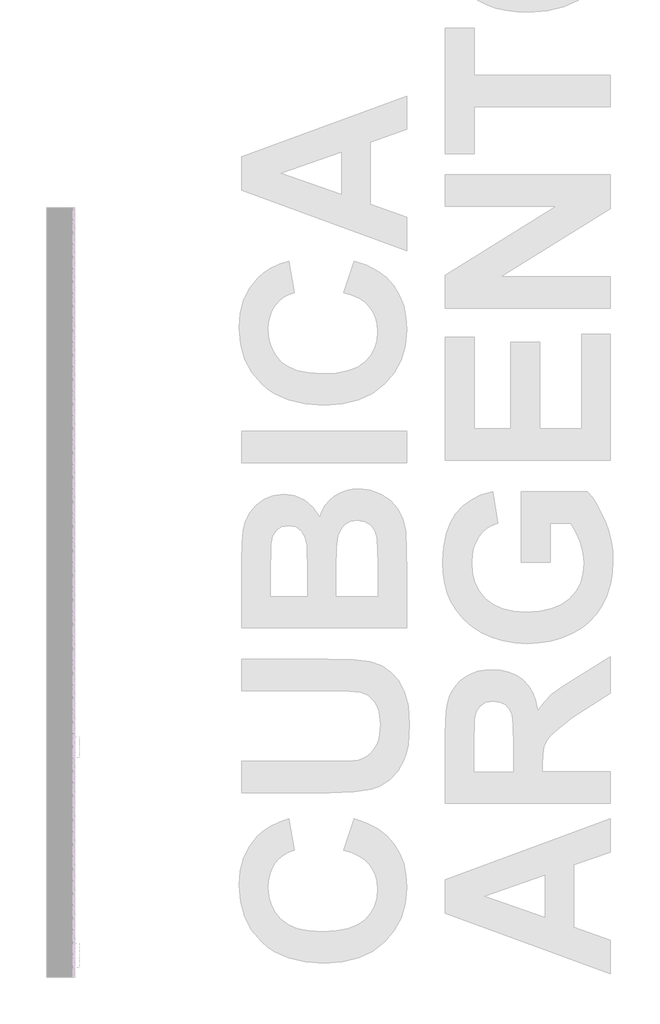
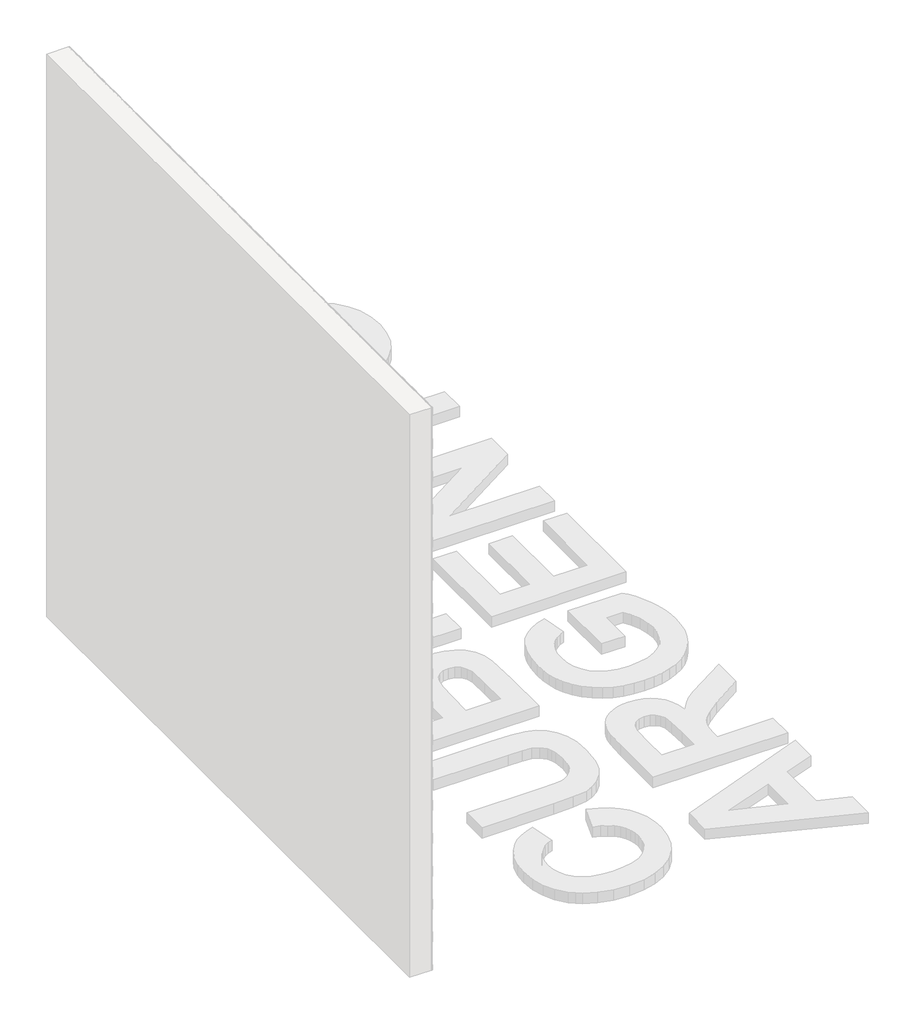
# One storey, part 9 of 121: 145 proxies.
"""IFC4 building model written with IfcOpenShell, lengths in millimetres."""

from ifc_helpers import new_model, si_unit, origin, place, context, project, spatial, transform, mapped, element, save
from components import generic_models_b2b2c5c1, generic_models_9bf73f6f, generic_models_5d175859

model = new_model("IFC4")

# Units and contexts
model_context = context("Model", 3, world=origin())
ifc_project = project(units=[si_unit("LENGTHUNIT", "METRE", prefix="MILLI")], contexts=[model_context])

# Site, building, storey
site = spatial("IfcSite", under=ifc_project)
building = spatial("IfcBuilding", under=site)
storey = spatial("IfcBuildingStorey", under=building, Name="PORTOBELLO - SHOWROOM", Elevation=0.0)

# Proxies
placement = place(None, origin())
generic_models_shape = generic_models_b2b2c5c1(model_context)
element("IfcBuildingElementProxy", 1, Name="PBSHOP - CUBICA ARGENTO 4,8X8,3 : CUBICA ARGENTO - POSIÇÃO 01", ObjectType="PBSHOP - CUBICA ARGENTO 4,8X8,3 : CUBICA ARGENTO - POSIÇÃO 01", at=placement, inside=storey, context=model_context, shape_type="MappedRepresentation", body=[
    mapped(generic_models_shape, transform((150369.5341846, -5313.3810235, 1460.2456575), x_axis=(0.0, 1.0, 0.0), y_axis=(0.0, 0.0, 1.0), z_axis=(1.0, 0.0, 0.0))),
])
element("IfcBuildingElementProxy", 2, Name="PBSHOP - CUBICA ARGENTO 4,8X8,3 : CUBICA ARGENTO - POSIÇÃO 01", ObjectType="PBSHOP - CUBICA ARGENTO 4,8X8,3 : CUBICA ARGENTO - POSIÇÃO 01", at=placement, inside=storey, context=model_context, shape_type="MappedRepresentation", body=[
    mapped(generic_models_shape, transform((150369.5341846, -5222.5417543, 1460.2456575), x_axis=(0.0, 1.0, 0.0), y_axis=(0.0, 0.0, 1.0), z_axis=(1.0, 0.0, 0.0))),
])
element("IfcBuildingElementProxy", 3, Name="PBSHOP - CUBICA ARGENTO 4,8X8,3 : CUBICA ARGENTO - POSIÇÃO 01", ObjectType="PBSHOP - CUBICA ARGENTO 4,8X8,3 : CUBICA ARGENTO - POSIÇÃO 01", at=placement, inside=storey, context=model_context, shape_type="MappedRepresentation", body=[
    mapped(generic_models_shape, transform((150369.5341846, -5131.702485, 1460.2456575), x_axis=(0.0, 1.0, 0.0), y_axis=(0.0, 0.0, 1.0), z_axis=(1.0, 0.0, 0.0))),
])
element("IfcBuildingElementProxy", 4, Name="PBSHOP - CUBICA ARGENTO 4,8X8,3 : CUBICA ARGENTO - POSIÇÃO 01", ObjectType="PBSHOP - CUBICA ARGENTO 4,8X8,3 : CUBICA ARGENTO - POSIÇÃO 01", at=placement, inside=storey, context=model_context, shape_type="MappedRepresentation", body=[
    mapped(generic_models_shape, transform((150369.5341846, -5040.8632158, 1460.2456575), x_axis=(0.0, 1.0, 0.0), y_axis=(0.0, 0.0, 1.0), z_axis=(1.0, 0.0, 0.0))),
])
element("IfcBuildingElementProxy", 5, Name="PBSHOP - CUBICA ARGENTO 4,8X8,3 : CUBICA ARGENTO - POSIÇÃO 01", ObjectType="PBSHOP - CUBICA ARGENTO 4,8X8,3 : CUBICA ARGENTO - POSIÇÃO 01", at=placement, inside=storey, context=model_context, shape_type="MappedRepresentation", body=[
    mapped(generic_models_shape, transform((150369.5341846, -5994.6755428, 1539.1802959), x_axis=(0.0, 1.0, 0.0), y_axis=(0.0, 0.0, 1.0), z_axis=(1.0, 0.0, 0.0))),
])
element("IfcBuildingElementProxy", 6, Name="PBSHOP - CUBICA ARGENTO 4,8X8,3 : CUBICA ARGENTO - POSIÇÃO 01", ObjectType="PBSHOP - CUBICA ARGENTO 4,8X8,3 : CUBICA ARGENTO - POSIÇÃO 01", at=placement, inside=storey, context=model_context, shape_type="MappedRepresentation", body=[
    mapped(generic_models_shape, transform((150369.5341846, -5903.8362736, 1539.1802959), x_axis=(0.0, 1.0, 0.0), y_axis=(0.0, 0.0, 1.0), z_axis=(1.0, 0.0, 0.0))),
])
element("IfcBuildingElementProxy", 7, Name="PBSHOP - CUBICA ARGENTO 4,8X8,3 : CUBICA ARGENTO - POSIÇÃO 01", ObjectType="PBSHOP - CUBICA ARGENTO 4,8X8,3 : CUBICA ARGENTO - POSIÇÃO 01", at=placement, inside=storey, context=model_context, shape_type="MappedRepresentation", body=[
    mapped(generic_models_shape, transform((150369.5341846, -5812.9970043, 1539.1802959), x_axis=(0.0, 1.0, 0.0), y_axis=(0.0, 0.0, 1.0), z_axis=(1.0, 0.0, 0.0))),
])
element("IfcBuildingElementProxy", 8, Name="PBSHOP - CUBICA ARGENTO 4,8X8,3 : CUBICA ARGENTO - POSIÇÃO 01", ObjectType="PBSHOP - CUBICA ARGENTO 4,8X8,3 : CUBICA ARGENTO - POSIÇÃO 01", at=placement, inside=storey, context=model_context, shape_type="MappedRepresentation", body=[
    mapped(generic_models_shape, transform((150369.5341846, -5722.1577351, 1539.1802959), x_axis=(0.0, 1.0, 0.0), y_axis=(0.0, 0.0, 1.0), z_axis=(1.0, 0.0, 0.0))),
])
element("IfcBuildingElementProxy", 9, Name="PBSHOP - CUBICA ARGENTO 4,8X8,3 : CUBICA ARGENTO - POSIÇÃO 01", ObjectType="PBSHOP - CUBICA ARGENTO 4,8X8,3 : CUBICA ARGENTO - POSIÇÃO 01", at=placement, inside=storey, context=model_context, shape_type="MappedRepresentation", body=[
    mapped(generic_models_shape, transform((150369.5341846, -5631.3184659, 1539.1802959), x_axis=(0.0, 1.0, 0.0), y_axis=(0.0, 0.0, 1.0), z_axis=(1.0, 0.0, 0.0))),
])
element("IfcBuildingElementProxy", 10, Name="PBSHOP - CUBICA ARGENTO 4,8X8,3 : CUBICA ARGENTO - POSIÇÃO 01", ObjectType="PBSHOP - CUBICA ARGENTO 4,8X8,3 : CUBICA ARGENTO - POSIÇÃO 01", at=placement, inside=storey, context=model_context, shape_type="MappedRepresentation", body=[
    mapped(generic_models_shape, transform((150369.5341846, -5540.4791966, 1539.1802959), x_axis=(0.0, 1.0, 0.0), y_axis=(0.0, 0.0, 1.0), z_axis=(1.0, 0.0, 0.0))),
])
element("IfcBuildingElementProxy", 11, Name="PBSHOP - CUBICA ARGENTO 4,8X8,3 : CUBICA ARGENTO - POSIÇÃO 01", ObjectType="PBSHOP - CUBICA ARGENTO 4,8X8,3 : CUBICA ARGENTO - POSIÇÃO 01", at=placement, inside=storey, context=model_context, shape_type="MappedRepresentation", body=[
    mapped(generic_models_shape, transform((150369.5341846, -5449.6399274, 1539.1802959), x_axis=(0.0, 1.0, 0.0), y_axis=(0.0, 0.0, 1.0), z_axis=(1.0, 0.0, 0.0))),
])
element("IfcBuildingElementProxy", 12, Name="PBSHOP - CUBICA ARGENTO 4,8X8,3 : CUBICA ARGENTO - POSIÇÃO 01", ObjectType="PBSHOP - CUBICA ARGENTO 4,8X8,3 : CUBICA ARGENTO - POSIÇÃO 01", at=placement, inside=storey, context=model_context, shape_type="MappedRepresentation", body=[
    mapped(generic_models_shape, transform((150369.5341846, -5358.8006581, 1539.1802959), x_axis=(0.0, 1.0, 0.0), y_axis=(0.0, 0.0, 1.0), z_axis=(1.0, 0.0, 0.0))),
])
element("IfcBuildingElementProxy", 13, Name="PBSHOP - CUBICA ARGENTO 4,8X8,3 : CUBICA ARGENTO - POSIÇÃO 01", ObjectType="PBSHOP - CUBICA ARGENTO 4,8X8,3 : CUBICA ARGENTO - POSIÇÃO 01", at=placement, inside=storey, context=model_context, shape_type="MappedRepresentation", body=[
    mapped(generic_models_shape, transform((150369.5341846, -5267.9613889, 1539.1802959), x_axis=(0.0, 1.0, 0.0), y_axis=(0.0, 0.0, 1.0), z_axis=(1.0, 0.0, 0.0))),
])
element("IfcBuildingElementProxy", 14, Name="PBSHOP - CUBICA ARGENTO 4,8X8,3 : CUBICA ARGENTO - POSIÇÃO 01", ObjectType="PBSHOP - CUBICA ARGENTO 4,8X8,3 : CUBICA ARGENTO - POSIÇÃO 01", at=placement, inside=storey, context=model_context, shape_type="MappedRepresentation", body=[
    mapped(generic_models_shape, transform((150369.5341846, -5177.1221196, 1539.1802959), x_axis=(0.0, 1.0, 0.0), y_axis=(0.0, 0.0, 1.0), z_axis=(1.0, 0.0, 0.0))),
])
element("IfcBuildingElementProxy", 15, Name="PBSHOP - CUBICA ARGENTO 4,8X8,3 : CUBICA ARGENTO - POSIÇÃO 01", ObjectType="PBSHOP - CUBICA ARGENTO 4,8X8,3 : CUBICA ARGENTO - POSIÇÃO 01", at=placement, inside=storey, context=model_context, shape_type="MappedRepresentation", body=[
    mapped(generic_models_shape, transform((150369.5341846, -5086.2828504, 1539.1802959), x_axis=(0.0, 1.0, 0.0), y_axis=(0.0, 0.0, 1.0), z_axis=(1.0, 0.0, 0.0))),
])
element("IfcBuildingElementProxy", 16, Name="PBSHOP - CUBICA ARGENTO 4,8X8,3 : CUBICA ARGENTO - POSIÇÃO 01", ObjectType="PBSHOP - CUBICA ARGENTO 4,8X8,3 : CUBICA ARGENTO - POSIÇÃO 01", at=placement, inside=storey, context=model_context, shape_type="MappedRepresentation", body=[
    mapped(generic_models_shape, transform((150369.5341846, -5949.2559082, 1618.1149343), x_axis=(0.0, 1.0, 0.0), y_axis=(0.0, 0.0, 1.0), z_axis=(1.0, 0.0, 0.0))),
])
element("IfcBuildingElementProxy", 17, Name="PBSHOP - CUBICA ARGENTO 4,8X8,3 : CUBICA ARGENTO - POSIÇÃO 01", ObjectType="PBSHOP - CUBICA ARGENTO 4,8X8,3 : CUBICA ARGENTO - POSIÇÃO 01", at=placement, inside=storey, context=model_context, shape_type="MappedRepresentation", body=[
    mapped(generic_models_shape, transform((150369.5341846, -5858.416639, 1618.1149343), x_axis=(0.0, 1.0, 0.0), y_axis=(0.0, 0.0, 1.0), z_axis=(1.0, 0.0, 0.0))),
])
element("IfcBuildingElementProxy", 18, Name="PBSHOP - CUBICA ARGENTO 4,8X8,3 : CUBICA ARGENTO - POSIÇÃO 01", ObjectType="PBSHOP - CUBICA ARGENTO 4,8X8,3 : CUBICA ARGENTO - POSIÇÃO 01", at=placement, inside=storey, context=model_context, shape_type="MappedRepresentation", body=[
    mapped(generic_models_shape, transform((150369.5341846, -5767.5773697, 1618.1149343), x_axis=(0.0, 1.0, 0.0), y_axis=(0.0, 0.0, 1.0), z_axis=(1.0, 0.0, 0.0))),
])
element("IfcBuildingElementProxy", 19, Name="PBSHOP - CUBICA ARGENTO 4,8X8,3 : CUBICA ARGENTO - POSIÇÃO 01", ObjectType="PBSHOP - CUBICA ARGENTO 4,8X8,3 : CUBICA ARGENTO - POSIÇÃO 01", at=placement, inside=storey, context=model_context, shape_type="MappedRepresentation", body=[
    mapped(generic_models_shape, transform((150369.5341846, -5676.7381005, 1618.1149343), x_axis=(0.0, 1.0, 0.0), y_axis=(0.0, 0.0, 1.0), z_axis=(1.0, 0.0, 0.0))),
])
element("IfcBuildingElementProxy", 20, Name="PBSHOP - CUBICA ARGENTO 4,8X8,3 : CUBICA ARGENTO - POSIÇÃO 01", ObjectType="PBSHOP - CUBICA ARGENTO 4,8X8,3 : CUBICA ARGENTO - POSIÇÃO 01", at=placement, inside=storey, context=model_context, shape_type="MappedRepresentation", body=[
    mapped(generic_models_shape, transform((150369.5341846, -5585.8988312, 1618.1149343), x_axis=(0.0, 1.0, 0.0), y_axis=(0.0, 0.0, 1.0), z_axis=(1.0, 0.0, 0.0))),
])
element("IfcBuildingElementProxy", 21, Name="PBSHOP - CUBICA ARGENTO 4,8X8,3 : CUBICA ARGENTO - POSIÇÃO 01", ObjectType="PBSHOP - CUBICA ARGENTO 4,8X8,3 : CUBICA ARGENTO - POSIÇÃO 01", at=placement, inside=storey, context=model_context, shape_type="MappedRepresentation", body=[
    mapped(generic_models_shape, transform((150369.5341846, -5495.059562, 1618.1149343), x_axis=(0.0, 1.0, 0.0), y_axis=(0.0, 0.0, 1.0), z_axis=(1.0, 0.0, 0.0))),
])
element("IfcBuildingElementProxy", 22, Name="PBSHOP - CUBICA ARGENTO 4,8X8,3 : CUBICA ARGENTO - POSIÇÃO 01", ObjectType="PBSHOP - CUBICA ARGENTO 4,8X8,3 : CUBICA ARGENTO - POSIÇÃO 01", at=placement, inside=storey, context=model_context, shape_type="MappedRepresentation", body=[
    mapped(generic_models_shape, transform((150369.5341846, -5404.2202927, 1618.1149343), x_axis=(0.0, 1.0, 0.0), y_axis=(0.0, 0.0, 1.0), z_axis=(1.0, 0.0, 0.0))),
])
element("IfcBuildingElementProxy", 23, Name="PBSHOP - CUBICA ARGENTO 4,8X8,3 : CUBICA ARGENTO - POSIÇÃO 01", ObjectType="PBSHOP - CUBICA ARGENTO 4,8X8,3 : CUBICA ARGENTO - POSIÇÃO 01", at=placement, inside=storey, context=model_context, shape_type="MappedRepresentation", body=[
    mapped(generic_models_shape, transform((150369.5341846, -5313.3810235, 1618.1149343), x_axis=(0.0, 1.0, 0.0), y_axis=(0.0, 0.0, 1.0), z_axis=(1.0, 0.0, 0.0))),
])
element("IfcBuildingElementProxy", 24, Name="PBSHOP - CUBICA ARGENTO 4,8X8,3 : CUBICA ARGENTO - POSIÇÃO 01", ObjectType="PBSHOP - CUBICA ARGENTO 4,8X8,3 : CUBICA ARGENTO - POSIÇÃO 01", at=placement, inside=storey, context=model_context, shape_type="MappedRepresentation", body=[
    mapped(generic_models_shape, transform((150369.5341846, -5222.5417543, 1618.1149343), x_axis=(0.0, 1.0, 0.0), y_axis=(0.0, 0.0, 1.0), z_axis=(1.0, 0.0, 0.0))),
])
element("IfcBuildingElementProxy", 25, Name="PBSHOP - CUBICA ARGENTO 4,8X8,3 : CUBICA ARGENTO - POSIÇÃO 01", ObjectType="PBSHOP - CUBICA ARGENTO 4,8X8,3 : CUBICA ARGENTO - POSIÇÃO 01", at=placement, inside=storey, context=model_context, shape_type="MappedRepresentation", body=[
    mapped(generic_models_shape, transform((150369.5341846, -5131.702485, 1618.1149343), x_axis=(0.0, 1.0, 0.0), y_axis=(0.0, 0.0, 1.0), z_axis=(1.0, 0.0, 0.0))),
])
element("IfcBuildingElementProxy", 26, Name="PBSHOP - CUBICA ARGENTO 4,8X8,3 : CUBICA ARGENTO - POSIÇÃO 01", ObjectType="PBSHOP - CUBICA ARGENTO 4,8X8,3 : CUBICA ARGENTO - POSIÇÃO 01", at=placement, inside=storey, context=model_context, shape_type="MappedRepresentation", body=[
    mapped(generic_models_shape, transform((150369.5341846, -5040.8632158, 1618.1149343), x_axis=(0.0, 1.0, 0.0), y_axis=(0.0, 0.0, 1.0), z_axis=(1.0, 0.0, 0.0))),
])
element("IfcBuildingElementProxy", 27, Name="PBSHOP - CUBICA ARGENTO 4,8X8,3 : CUBICA ARGENTO - POSIÇÃO 01", ObjectType="PBSHOP - CUBICA ARGENTO 4,8X8,3 : CUBICA ARGENTO - POSIÇÃO 01", at=placement, inside=storey, context=model_context, shape_type="MappedRepresentation", body=[
    mapped(generic_models_shape, transform((150369.5341846, -5994.6755428, 1697.0495727), x_axis=(0.0, 1.0, 0.0), y_axis=(0.0, 0.0, 1.0), z_axis=(1.0, 0.0, 0.0))),
])
element("IfcBuildingElementProxy", 28, Name="PBSHOP - CUBICA ARGENTO 4,8X8,3 : CUBICA ARGENTO - POSIÇÃO 01", ObjectType="PBSHOP - CUBICA ARGENTO 4,8X8,3 : CUBICA ARGENTO - POSIÇÃO 01", at=placement, inside=storey, context=model_context, shape_type="MappedRepresentation", body=[
    mapped(generic_models_shape, transform((150369.5341846, -5903.8362736, 1697.0495727), x_axis=(0.0, 1.0, 0.0), y_axis=(0.0, 0.0, 1.0), z_axis=(1.0, 0.0, 0.0))),
])
element("IfcBuildingElementProxy", 29, Name="PBSHOP - CUBICA ARGENTO 4,8X8,3 : CUBICA ARGENTO - POSIÇÃO 01", ObjectType="PBSHOP - CUBICA ARGENTO 4,8X8,3 : CUBICA ARGENTO - POSIÇÃO 01", at=placement, inside=storey, context=model_context, shape_type="MappedRepresentation", body=[
    mapped(generic_models_shape, transform((150369.5341846, -5812.9970043, 1697.0495727), x_axis=(0.0, 1.0, 0.0), y_axis=(0.0, 0.0, 1.0), z_axis=(1.0, 0.0, 0.0))),
])
element("IfcBuildingElementProxy", 30, Name="PBSHOP - CUBICA ARGENTO 4,8X8,3 : CUBICA ARGENTO - POSIÇÃO 01", ObjectType="PBSHOP - CUBICA ARGENTO 4,8X8,3 : CUBICA ARGENTO - POSIÇÃO 01", at=placement, inside=storey, context=model_context, shape_type="MappedRepresentation", body=[
    mapped(generic_models_shape, transform((150369.5341846, -5722.1577351, 1697.0495727), x_axis=(0.0, 1.0, 0.0), y_axis=(0.0, 0.0, 1.0), z_axis=(1.0, 0.0, 0.0))),
])
element("IfcBuildingElementProxy", 31, Name="PBSHOP - CUBICA ARGENTO 4,8X8,3 : CUBICA ARGENTO - POSIÇÃO 01", ObjectType="PBSHOP - CUBICA ARGENTO 4,8X8,3 : CUBICA ARGENTO - POSIÇÃO 01", at=placement, inside=storey, context=model_context, shape_type="MappedRepresentation", body=[
    mapped(generic_models_shape, transform((150369.5341846, -5631.3184659, 1697.0495727), x_axis=(0.0, 1.0, 0.0), y_axis=(0.0, 0.0, 1.0), z_axis=(1.0, 0.0, 0.0))),
])
element("IfcBuildingElementProxy", 32, Name="PBSHOP - CUBICA ARGENTO 4,8X8,3 : CUBICA ARGENTO - POSIÇÃO 01", ObjectType="PBSHOP - CUBICA ARGENTO 4,8X8,3 : CUBICA ARGENTO - POSIÇÃO 01", at=placement, inside=storey, context=model_context, shape_type="MappedRepresentation", body=[
    mapped(generic_models_shape, transform((150369.5341846, -5540.4791966, 1697.0495727), x_axis=(0.0, 1.0, 0.0), y_axis=(0.0, 0.0, 1.0), z_axis=(1.0, 0.0, 0.0))),
])
element("IfcBuildingElementProxy", 33, Name="PBSHOP - CUBICA ARGENTO 4,8X8,3 : CUBICA ARGENTO - POSIÇÃO 01", ObjectType="PBSHOP - CUBICA ARGENTO 4,8X8,3 : CUBICA ARGENTO - POSIÇÃO 01", at=placement, inside=storey, context=model_context, shape_type="MappedRepresentation", body=[
    mapped(generic_models_shape, transform((150369.5341846, -5449.6399274, 1697.0495727), x_axis=(0.0, 1.0, 0.0), y_axis=(0.0, 0.0, 1.0), z_axis=(1.0, 0.0, 0.0))),
])
element("IfcBuildingElementProxy", 34, Name="PBSHOP - CUBICA ARGENTO 4,8X8,3 : CUBICA ARGENTO - POSIÇÃO 01", ObjectType="PBSHOP - CUBICA ARGENTO 4,8X8,3 : CUBICA ARGENTO - POSIÇÃO 01", at=placement, inside=storey, context=model_context, shape_type="MappedRepresentation", body=[
    mapped(generic_models_shape, transform((150369.5341846, -5358.8006581, 1697.0495727), x_axis=(0.0, 1.0, 0.0), y_axis=(0.0, 0.0, 1.0), z_axis=(1.0, 0.0, 0.0))),
])
element("IfcBuildingElementProxy", 35, Name="PBSHOP - CUBICA ARGENTO 4,8X8,3 : CUBICA ARGENTO - POSIÇÃO 01", ObjectType="PBSHOP - CUBICA ARGENTO 4,8X8,3 : CUBICA ARGENTO - POSIÇÃO 01", at=placement, inside=storey, context=model_context, shape_type="MappedRepresentation", body=[
    mapped(generic_models_shape, transform((150369.5341846, -5267.9613889, 1697.0495727), x_axis=(0.0, 1.0, 0.0), y_axis=(0.0, 0.0, 1.0), z_axis=(1.0, 0.0, 0.0))),
])
element("IfcBuildingElementProxy", 36, Name="PBSHOP - CUBICA ARGENTO 4,8X8,3 : CUBICA ARGENTO - POSIÇÃO 01", ObjectType="PBSHOP - CUBICA ARGENTO 4,8X8,3 : CUBICA ARGENTO - POSIÇÃO 01", at=placement, inside=storey, context=model_context, shape_type="MappedRepresentation", body=[
    mapped(generic_models_shape, transform((150369.5341846, -5177.1221196, 1697.0495727), x_axis=(0.0, 1.0, 0.0), y_axis=(0.0, 0.0, 1.0), z_axis=(1.0, 0.0, 0.0))),
])
element("IfcBuildingElementProxy", 37, Name="PBSHOP - CUBICA ARGENTO 4,8X8,3 : CUBICA ARGENTO - POSIÇÃO 01", ObjectType="PBSHOP - CUBICA ARGENTO 4,8X8,3 : CUBICA ARGENTO - POSIÇÃO 01", at=placement, inside=storey, context=model_context, shape_type="MappedRepresentation", body=[
    mapped(generic_models_shape, transform((150369.5341846, -5086.2828504, 1697.0495727), x_axis=(0.0, 1.0, 0.0), y_axis=(0.0, 0.0, 1.0), z_axis=(1.0, 0.0, 0.0))),
])
element("IfcBuildingElementProxy", 38, Name="PBSHOP - CUBICA ARGENTO 4,8X8,3 : CUBICA ARGENTO - POSIÇÃO 01", ObjectType="PBSHOP - CUBICA ARGENTO 4,8X8,3 : CUBICA ARGENTO - POSIÇÃO 01", at=placement, inside=storey, context=model_context, shape_type="MappedRepresentation", body=[
    mapped(generic_models_shape, transform((150369.5341846, -5949.2559082, 1775.984211), x_axis=(0.0, 1.0, 0.0), y_axis=(0.0, 0.0, 1.0), z_axis=(1.0, 0.0, 0.0))),
])
element("IfcBuildingElementProxy", 39, Name="PBSHOP - CUBICA ARGENTO 4,8X8,3 : CUBICA ARGENTO - POSIÇÃO 01", ObjectType="PBSHOP - CUBICA ARGENTO 4,8X8,3 : CUBICA ARGENTO - POSIÇÃO 01", at=placement, inside=storey, context=model_context, shape_type="MappedRepresentation", body=[
    mapped(generic_models_shape, transform((150369.5341846, -5858.416639, 1775.984211), x_axis=(0.0, 1.0, 0.0), y_axis=(0.0, 0.0, 1.0), z_axis=(1.0, 0.0, 0.0))),
])
element("IfcBuildingElementProxy", 40, Name="PBSHOP - CUBICA ARGENTO 4,8X8,3 : CUBICA ARGENTO - POSIÇÃO 01", ObjectType="PBSHOP - CUBICA ARGENTO 4,8X8,3 : CUBICA ARGENTO - POSIÇÃO 01", at=placement, inside=storey, context=model_context, shape_type="MappedRepresentation", body=[
    mapped(generic_models_shape, transform((150369.5341846, -5767.5773697, 1775.984211), x_axis=(0.0, 1.0, 0.0), y_axis=(0.0, 0.0, 1.0), z_axis=(1.0, 0.0, 0.0))),
])
element("IfcBuildingElementProxy", 41, Name="PBSHOP - CUBICA ARGENTO 4,8X8,3 : CUBICA ARGENTO - POSIÇÃO 01", ObjectType="PBSHOP - CUBICA ARGENTO 4,8X8,3 : CUBICA ARGENTO - POSIÇÃO 01", at=placement, inside=storey, context=model_context, shape_type="MappedRepresentation", body=[
    mapped(generic_models_shape, transform((150369.5341846, -5676.7381005, 1775.984211), x_axis=(0.0, 1.0, 0.0), y_axis=(0.0, 0.0, 1.0), z_axis=(1.0, 0.0, 0.0))),
])
element("IfcBuildingElementProxy", 42, Name="PBSHOP - CUBICA ARGENTO 4,8X8,3 : CUBICA ARGENTO - POSIÇÃO 01", ObjectType="PBSHOP - CUBICA ARGENTO 4,8X8,3 : CUBICA ARGENTO - POSIÇÃO 01", at=placement, inside=storey, context=model_context, shape_type="MappedRepresentation", body=[
    mapped(generic_models_shape, transform((150369.5341846, -5585.8988312, 1775.984211), x_axis=(0.0, 1.0, 0.0), y_axis=(0.0, 0.0, 1.0), z_axis=(1.0, 0.0, 0.0))),
])
element("IfcBuildingElementProxy", 43, Name="PBSHOP - CUBICA ARGENTO 4,8X8,3 : CUBICA ARGENTO - POSIÇÃO 01", ObjectType="PBSHOP - CUBICA ARGENTO 4,8X8,3 : CUBICA ARGENTO - POSIÇÃO 01", at=placement, inside=storey, context=model_context, shape_type="MappedRepresentation", body=[
    mapped(generic_models_shape, transform((150369.5341846, -5495.059562, 1775.984211), x_axis=(0.0, 1.0, 0.0), y_axis=(0.0, 0.0, 1.0), z_axis=(1.0, 0.0, 0.0))),
])
element("IfcBuildingElementProxy", 44, Name="PBSHOP - CUBICA ARGENTO 4,8X8,3 : CUBICA ARGENTO - POSIÇÃO 01", ObjectType="PBSHOP - CUBICA ARGENTO 4,8X8,3 : CUBICA ARGENTO - POSIÇÃO 01", at=placement, inside=storey, context=model_context, shape_type="MappedRepresentation", body=[
    mapped(generic_models_shape, transform((150369.5341846, -5404.2202927, 1775.984211), x_axis=(0.0, 1.0, 0.0), y_axis=(0.0, 0.0, 1.0), z_axis=(1.0, 0.0, 0.0))),
])
element("IfcBuildingElementProxy", 45, Name="PBSHOP - CUBICA ARGENTO 4,8X8,3 : CUBICA ARGENTO - POSIÇÃO 01", ObjectType="PBSHOP - CUBICA ARGENTO 4,8X8,3 : CUBICA ARGENTO - POSIÇÃO 01", at=placement, inside=storey, context=model_context, shape_type="MappedRepresentation", body=[
    mapped(generic_models_shape, transform((150369.5341846, -5313.3810235, 1775.984211), x_axis=(0.0, 1.0, 0.0), y_axis=(0.0, 0.0, 1.0), z_axis=(1.0, 0.0, 0.0))),
])
element("IfcBuildingElementProxy", 46, Name="PBSHOP - CUBICA ARGENTO 4,8X8,3 : CUBICA ARGENTO - POSIÇÃO 01", ObjectType="PBSHOP - CUBICA ARGENTO 4,8X8,3 : CUBICA ARGENTO - POSIÇÃO 01", at=placement, inside=storey, context=model_context, shape_type="MappedRepresentation", body=[
    mapped(generic_models_shape, transform((150369.5341846, -5222.5417543, 1775.984211), x_axis=(0.0, 1.0, 0.0), y_axis=(0.0, 0.0, 1.0), z_axis=(1.0, 0.0, 0.0))),
])
element("IfcBuildingElementProxy", 47, Name="PBSHOP - CUBICA ARGENTO 4,8X8,3 : CUBICA ARGENTO - POSIÇÃO 01", ObjectType="PBSHOP - CUBICA ARGENTO 4,8X8,3 : CUBICA ARGENTO - POSIÇÃO 01", at=placement, inside=storey, context=model_context, shape_type="MappedRepresentation", body=[
    mapped(generic_models_shape, transform((150369.5341846, -5131.702485, 1775.984211), x_axis=(0.0, 1.0, 0.0), y_axis=(0.0, 0.0, 1.0), z_axis=(1.0, 0.0, 0.0))),
])
element("IfcBuildingElementProxy", 48, Name="PBSHOP - CUBICA ARGENTO 4,8X8,3 : CUBICA ARGENTO - POSIÇÃO 01", ObjectType="PBSHOP - CUBICA ARGENTO 4,8X8,3 : CUBICA ARGENTO - POSIÇÃO 01", at=placement, inside=storey, context=model_context, shape_type="MappedRepresentation", body=[
    mapped(generic_models_shape, transform((150369.5341846, -5040.8632158, 1775.984211), x_axis=(0.0, 1.0, 0.0), y_axis=(0.0, 0.0, 1.0), z_axis=(1.0, 0.0, 0.0))),
])
generic_models_2_shape = generic_models_9bf73f6f(model_context)
element("IfcBuildingElementProxy", 49, Name="PBSHOP - CUBICA ARGENTO 4,8X8,3 : CUBICA ARGENTO - POSIÇÃO 03", ObjectType="PBSHOP - CUBICA ARGENTO 4,8X8,3 : CUBICA ARGENTO - POSIÇÃO 03", at=placement, inside=storey, context=model_context, shape_type="MappedRepresentation", body=[
    mapped(generic_models_2_shape, transform((150369.5341846, -5971.9635664, 1420.7371279), x_axis=(0.0, 1.0, 0.0), y_axis=(0.0, 0.0, 1.0), z_axis=(1.0, 0.0, 0.0))),
])
element("IfcBuildingElementProxy", 50, Name="PBSHOP - CUBICA ARGENTO 4,8X8,3 : CUBICA ARGENTO - POSIÇÃO 03", ObjectType="PBSHOP - CUBICA ARGENTO 4,8X8,3 : CUBICA ARGENTO - POSIÇÃO 03", at=placement, inside=storey, context=model_context, shape_type="MappedRepresentation", body=[
    mapped(generic_models_2_shape, transform((150369.5341846, -5881.1242971, 1420.7371279), x_axis=(0.0, 1.0, 0.0), y_axis=(0.0, 0.0, 1.0), z_axis=(1.0, 0.0, 0.0))),
])
element("IfcBuildingElementProxy", 51, Name="PBSHOP - CUBICA ARGENTO 4,8X8,3 : CUBICA ARGENTO - POSIÇÃO 03", ObjectType="PBSHOP - CUBICA ARGENTO 4,8X8,3 : CUBICA ARGENTO - POSIÇÃO 03", at=placement, inside=storey, context=model_context, shape_type="MappedRepresentation", body=[
    mapped(generic_models_2_shape, transform((150369.5341846, -5790.2850279, 1420.7371279), x_axis=(0.0, 1.0, 0.0), y_axis=(0.0, 0.0, 1.0), z_axis=(1.0, 0.0, 0.0))),
])
element("IfcBuildingElementProxy", 52, Name="PBSHOP - CUBICA ARGENTO 4,8X8,3 : CUBICA ARGENTO - POSIÇÃO 03", ObjectType="PBSHOP - CUBICA ARGENTO 4,8X8,3 : CUBICA ARGENTO - POSIÇÃO 03", at=placement, inside=storey, context=model_context, shape_type="MappedRepresentation", body=[
    mapped(generic_models_2_shape, transform((150369.5341846, -5699.4457586, 1420.7371279), x_axis=(0.0, 1.0, 0.0), y_axis=(0.0, 0.0, 1.0), z_axis=(1.0, 0.0, 0.0))),
])
element("IfcBuildingElementProxy", 53, Name="PBSHOP - CUBICA ARGENTO 4,8X8,3 : CUBICA ARGENTO - POSIÇÃO 03", ObjectType="PBSHOP - CUBICA ARGENTO 4,8X8,3 : CUBICA ARGENTO - POSIÇÃO 03", at=placement, inside=storey, context=model_context, shape_type="MappedRepresentation", body=[
    mapped(generic_models_2_shape, transform((150369.5341846, -5608.6064894, 1420.7371279), x_axis=(0.0, 1.0, 0.0), y_axis=(0.0, 0.0, 1.0), z_axis=(1.0, 0.0, 0.0))),
])
element("IfcBuildingElementProxy", 54, Name="PBSHOP - CUBICA ARGENTO 4,8X8,3 : CUBICA ARGENTO - POSIÇÃO 03", ObjectType="PBSHOP - CUBICA ARGENTO 4,8X8,3 : CUBICA ARGENTO - POSIÇÃO 03", at=placement, inside=storey, context=model_context, shape_type="MappedRepresentation", body=[
    mapped(generic_models_2_shape, transform((150369.5341846, -5517.7672201, 1420.7371279), x_axis=(0.0, 1.0, 0.0), y_axis=(0.0, 0.0, 1.0), z_axis=(1.0, 0.0, 0.0))),
])
element("IfcBuildingElementProxy", 55, Name="PBSHOP - CUBICA ARGENTO 4,8X8,3 : CUBICA ARGENTO - POSIÇÃO 03", ObjectType="PBSHOP - CUBICA ARGENTO 4,8X8,3 : CUBICA ARGENTO - POSIÇÃO 03", at=placement, inside=storey, context=model_context, shape_type="MappedRepresentation", body=[
    mapped(generic_models_2_shape, transform((150369.5341846, -5426.9279509, 1420.7371279), x_axis=(0.0, 1.0, 0.0), y_axis=(0.0, 0.0, 1.0), z_axis=(1.0, 0.0, 0.0))),
])
element("IfcBuildingElementProxy", 56, Name="PBSHOP - CUBICA ARGENTO 4,8X8,3 : CUBICA ARGENTO - POSIÇÃO 03", ObjectType="PBSHOP - CUBICA ARGENTO 4,8X8,3 : CUBICA ARGENTO - POSIÇÃO 03", at=placement, inside=storey, context=model_context, shape_type="MappedRepresentation", body=[
    mapped(generic_models_2_shape, transform((150369.5341846, -5336.0886816, 1420.7371279), x_axis=(0.0, 1.0, 0.0), y_axis=(0.0, 0.0, 1.0), z_axis=(1.0, 0.0, 0.0))),
])
element("IfcBuildingElementProxy", 57, Name="PBSHOP - CUBICA ARGENTO 4,8X8,3 : CUBICA ARGENTO - POSIÇÃO 03", ObjectType="PBSHOP - CUBICA ARGENTO 4,8X8,3 : CUBICA ARGENTO - POSIÇÃO 03", at=placement, inside=storey, context=model_context, shape_type="MappedRepresentation", body=[
    mapped(generic_models_2_shape, transform((150369.5341846, -5245.2494124, 1420.7371279), x_axis=(0.0, 1.0, 0.0), y_axis=(0.0, 0.0, 1.0), z_axis=(1.0, 0.0, 0.0))),
])
element("IfcBuildingElementProxy", 58, Name="PBSHOP - CUBICA ARGENTO 4,8X8,3 : CUBICA ARGENTO - POSIÇÃO 03", ObjectType="PBSHOP - CUBICA ARGENTO 4,8X8,3 : CUBICA ARGENTO - POSIÇÃO 03", at=placement, inside=storey, context=model_context, shape_type="MappedRepresentation", body=[
    mapped(generic_models_2_shape, transform((150369.5341846, -5154.4101432, 1420.7371279), x_axis=(0.0, 1.0, 0.0), y_axis=(0.0, 0.0, 1.0), z_axis=(1.0, 0.0, 0.0))),
])
element("IfcBuildingElementProxy", 59, Name="PBSHOP - CUBICA ARGENTO 4,8X8,3 : CUBICA ARGENTO - POSIÇÃO 03", ObjectType="PBSHOP - CUBICA ARGENTO 4,8X8,3 : CUBICA ARGENTO - POSIÇÃO 03", at=placement, inside=storey, context=model_context, shape_type="MappedRepresentation", body=[
    mapped(generic_models_2_shape, transform((150369.5341846, -5063.5708739, 1420.7371279), x_axis=(0.0, 1.0, 0.0), y_axis=(0.0, 0.0, 1.0), z_axis=(1.0, 0.0, 0.0))),
])
element("IfcBuildingElementProxy", 60, Name="PBSHOP - CUBICA ARGENTO 4,8X8,3 : CUBICA ARGENTO - POSIÇÃO 03", ObjectType="PBSHOP - CUBICA ARGENTO 4,8X8,3 : CUBICA ARGENTO - POSIÇÃO 03", at=placement, inside=storey, context=model_context, shape_type="MappedRepresentation", body=[
    mapped(generic_models_2_shape, transform((150369.5341846, -5926.5439317, 1499.6717663), x_axis=(0.0, 1.0, 0.0), y_axis=(0.0, 0.0, 1.0), z_axis=(1.0, 0.0, 0.0))),
])
element("IfcBuildingElementProxy", 61, Name="PBSHOP - CUBICA ARGENTO 4,8X8,3 : CUBICA ARGENTO - POSIÇÃO 03", ObjectType="PBSHOP - CUBICA ARGENTO 4,8X8,3 : CUBICA ARGENTO - POSIÇÃO 03", at=placement, inside=storey, context=model_context, shape_type="MappedRepresentation", body=[
    mapped(generic_models_2_shape, transform((150369.5341846, -5835.7046625, 1499.6717663), x_axis=(0.0, 1.0, 0.0), y_axis=(0.0, 0.0, 1.0), z_axis=(1.0, 0.0, 0.0))),
])
element("IfcBuildingElementProxy", 62, Name="PBSHOP - CUBICA ARGENTO 4,8X8,3 : CUBICA ARGENTO - POSIÇÃO 03", ObjectType="PBSHOP - CUBICA ARGENTO 4,8X8,3 : CUBICA ARGENTO - POSIÇÃO 03", at=placement, inside=storey, context=model_context, shape_type="MappedRepresentation", body=[
    mapped(generic_models_2_shape, transform((150369.5341846, -5744.8653932, 1499.6717663), x_axis=(0.0, 1.0, 0.0), y_axis=(0.0, 0.0, 1.0), z_axis=(1.0, 0.0, 0.0))),
])
element("IfcBuildingElementProxy", 63, Name="PBSHOP - CUBICA ARGENTO 4,8X8,3 : CUBICA ARGENTO - POSIÇÃO 03", ObjectType="PBSHOP - CUBICA ARGENTO 4,8X8,3 : CUBICA ARGENTO - POSIÇÃO 03", at=placement, inside=storey, context=model_context, shape_type="MappedRepresentation", body=[
    mapped(generic_models_2_shape, transform((150369.5341846, -5654.026124, 1499.6717663), x_axis=(0.0, 1.0, 0.0), y_axis=(0.0, 0.0, 1.0), z_axis=(1.0, 0.0, 0.0))),
])
element("IfcBuildingElementProxy", 64, Name="PBSHOP - CUBICA ARGENTO 4,8X8,3 : CUBICA ARGENTO - POSIÇÃO 03", ObjectType="PBSHOP - CUBICA ARGENTO 4,8X8,3 : CUBICA ARGENTO - POSIÇÃO 03", at=placement, inside=storey, context=model_context, shape_type="MappedRepresentation", body=[
    mapped(generic_models_2_shape, transform((150369.5341846, -5563.1868548, 1499.6717663), x_axis=(0.0, 1.0, 0.0), y_axis=(0.0, 0.0, 1.0), z_axis=(1.0, 0.0, 0.0))),
])
element("IfcBuildingElementProxy", 65, Name="PBSHOP - CUBICA ARGENTO 4,8X8,3 : CUBICA ARGENTO - POSIÇÃO 03", ObjectType="PBSHOP - CUBICA ARGENTO 4,8X8,3 : CUBICA ARGENTO - POSIÇÃO 03", at=placement, inside=storey, context=model_context, shape_type="MappedRepresentation", body=[
    mapped(generic_models_2_shape, transform((150369.5341846, -5472.3475855, 1499.6717663), x_axis=(0.0, 1.0, 0.0), y_axis=(0.0, 0.0, 1.0), z_axis=(1.0, 0.0, 0.0))),
])
element("IfcBuildingElementProxy", 66, Name="PBSHOP - CUBICA ARGENTO 4,8X8,3 : CUBICA ARGENTO - POSIÇÃO 03", ObjectType="PBSHOP - CUBICA ARGENTO 4,8X8,3 : CUBICA ARGENTO - POSIÇÃO 03", at=placement, inside=storey, context=model_context, shape_type="MappedRepresentation", body=[
    mapped(generic_models_2_shape, transform((150369.5341846, -5381.5083163, 1499.6717663), x_axis=(0.0, 1.0, 0.0), y_axis=(0.0, 0.0, 1.0), z_axis=(1.0, 0.0, 0.0))),
])
element("IfcBuildingElementProxy", 67, Name="PBSHOP - CUBICA ARGENTO 4,8X8,3 : CUBICA ARGENTO - POSIÇÃO 03", ObjectType="PBSHOP - CUBICA ARGENTO 4,8X8,3 : CUBICA ARGENTO - POSIÇÃO 03", at=placement, inside=storey, context=model_context, shape_type="MappedRepresentation", body=[
    mapped(generic_models_2_shape, transform((150369.5341846, -5290.669047, 1499.6717663), x_axis=(0.0, 1.0, 0.0), y_axis=(0.0, 0.0, 1.0), z_axis=(1.0, 0.0, 0.0))),
])
element("IfcBuildingElementProxy", 68, Name="PBSHOP - CUBICA ARGENTO 4,8X8,3 : CUBICA ARGENTO - POSIÇÃO 03", ObjectType="PBSHOP - CUBICA ARGENTO 4,8X8,3 : CUBICA ARGENTO - POSIÇÃO 03", at=placement, inside=storey, context=model_context, shape_type="MappedRepresentation", body=[
    mapped(generic_models_2_shape, transform((150369.5341846, -5199.8297778, 1499.6717663), x_axis=(0.0, 1.0, 0.0), y_axis=(0.0, 0.0, 1.0), z_axis=(1.0, 0.0, 0.0))),
])
element("IfcBuildingElementProxy", 69, Name="PBSHOP - CUBICA ARGENTO 4,8X8,3 : CUBICA ARGENTO - POSIÇÃO 03", ObjectType="PBSHOP - CUBICA ARGENTO 4,8X8,3 : CUBICA ARGENTO - POSIÇÃO 03", at=placement, inside=storey, context=model_context, shape_type="MappedRepresentation", body=[
    mapped(generic_models_2_shape, transform((150369.5341846, -5108.9905085, 1499.6717663), x_axis=(0.0, 1.0, 0.0), y_axis=(0.0, 0.0, 1.0), z_axis=(1.0, 0.0, 0.0))),
])
element("IfcBuildingElementProxy", 70, Name="PBSHOP - CUBICA ARGENTO 4,8X8,3 : CUBICA ARGENTO - POSIÇÃO 03", ObjectType="PBSHOP - CUBICA ARGENTO 4,8X8,3 : CUBICA ARGENTO - POSIÇÃO 03", at=placement, inside=storey, context=model_context, shape_type="MappedRepresentation", body=[
    mapped(generic_models_2_shape, transform((150369.5341846, -5018.1512393, 1499.6717663), x_axis=(0.0, 1.0, 0.0), y_axis=(0.0, 0.0, 1.0), z_axis=(1.0, 0.0, 0.0))),
])
element("IfcBuildingElementProxy", 71, Name="PBSHOP - CUBICA ARGENTO 4,8X8,3 : CUBICA ARGENTO - POSIÇÃO 03", ObjectType="PBSHOP - CUBICA ARGENTO 4,8X8,3 : CUBICA ARGENTO - POSIÇÃO 03", at=placement, inside=storey, context=model_context, shape_type="MappedRepresentation", body=[
    mapped(generic_models_2_shape, transform((150369.5341846, -5971.9635664, 1578.6064047), x_axis=(0.0, 1.0, 0.0), y_axis=(0.0, 0.0, 1.0), z_axis=(1.0, 0.0, 0.0))),
])
element("IfcBuildingElementProxy", 72, Name="PBSHOP - CUBICA ARGENTO 4,8X8,3 : CUBICA ARGENTO - POSIÇÃO 03", ObjectType="PBSHOP - CUBICA ARGENTO 4,8X8,3 : CUBICA ARGENTO - POSIÇÃO 03", at=placement, inside=storey, context=model_context, shape_type="MappedRepresentation", body=[
    mapped(generic_models_2_shape, transform((150369.5341846, -5881.1242971, 1578.6064047), x_axis=(0.0, 1.0, 0.0), y_axis=(0.0, 0.0, 1.0), z_axis=(1.0, 0.0, 0.0))),
])
element("IfcBuildingElementProxy", 73, Name="PBSHOP - CUBICA ARGENTO 4,8X8,3 : CUBICA ARGENTO - POSIÇÃO 03", ObjectType="PBSHOP - CUBICA ARGENTO 4,8X8,3 : CUBICA ARGENTO - POSIÇÃO 03", at=placement, inside=storey, context=model_context, shape_type="MappedRepresentation", body=[
    mapped(generic_models_2_shape, transform((150369.5341846, -5790.2850279, 1578.6064047), x_axis=(0.0, 1.0, 0.0), y_axis=(0.0, 0.0, 1.0), z_axis=(1.0, 0.0, 0.0))),
])
element("IfcBuildingElementProxy", 74, Name="PBSHOP - CUBICA ARGENTO 4,8X8,3 : CUBICA ARGENTO - POSIÇÃO 03", ObjectType="PBSHOP - CUBICA ARGENTO 4,8X8,3 : CUBICA ARGENTO - POSIÇÃO 03", at=placement, inside=storey, context=model_context, shape_type="MappedRepresentation", body=[
    mapped(generic_models_2_shape, transform((150369.5341846, -5699.4457586, 1578.6064047), x_axis=(0.0, 1.0, 0.0), y_axis=(0.0, 0.0, 1.0), z_axis=(1.0, 0.0, 0.0))),
])
element("IfcBuildingElementProxy", 75, Name="PBSHOP - CUBICA ARGENTO 4,8X8,3 : CUBICA ARGENTO - POSIÇÃO 03", ObjectType="PBSHOP - CUBICA ARGENTO 4,8X8,3 : CUBICA ARGENTO - POSIÇÃO 03", at=placement, inside=storey, context=model_context, shape_type="MappedRepresentation", body=[
    mapped(generic_models_2_shape, transform((150369.5341846, -5608.6064894, 1578.6064047), x_axis=(0.0, 1.0, 0.0), y_axis=(0.0, 0.0, 1.0), z_axis=(1.0, 0.0, 0.0))),
])
element("IfcBuildingElementProxy", 76, Name="PBSHOP - CUBICA ARGENTO 4,8X8,3 : CUBICA ARGENTO - POSIÇÃO 03", ObjectType="PBSHOP - CUBICA ARGENTO 4,8X8,3 : CUBICA ARGENTO - POSIÇÃO 03", at=placement, inside=storey, context=model_context, shape_type="MappedRepresentation", body=[
    mapped(generic_models_2_shape, transform((150369.5341846, -5517.7672201, 1578.6064047), x_axis=(0.0, 1.0, 0.0), y_axis=(0.0, 0.0, 1.0), z_axis=(1.0, 0.0, 0.0))),
])
element("IfcBuildingElementProxy", 77, Name="PBSHOP - CUBICA ARGENTO 4,8X8,3 : CUBICA ARGENTO - POSIÇÃO 03", ObjectType="PBSHOP - CUBICA ARGENTO 4,8X8,3 : CUBICA ARGENTO - POSIÇÃO 03", at=placement, inside=storey, context=model_context, shape_type="MappedRepresentation", body=[
    mapped(generic_models_2_shape, transform((150369.5341846, -5426.9279509, 1578.6064047), x_axis=(0.0, 1.0, 0.0), y_axis=(0.0, 0.0, 1.0), z_axis=(1.0, 0.0, 0.0))),
])
element("IfcBuildingElementProxy", 78, Name="PBSHOP - CUBICA ARGENTO 4,8X8,3 : CUBICA ARGENTO - POSIÇÃO 03", ObjectType="PBSHOP - CUBICA ARGENTO 4,8X8,3 : CUBICA ARGENTO - POSIÇÃO 03", at=placement, inside=storey, context=model_context, shape_type="MappedRepresentation", body=[
    mapped(generic_models_2_shape, transform((150369.5341846, -5336.0886816, 1578.6064047), x_axis=(0.0, 1.0, 0.0), y_axis=(0.0, 0.0, 1.0), z_axis=(1.0, 0.0, 0.0))),
])
element("IfcBuildingElementProxy", 79, Name="PBSHOP - CUBICA ARGENTO 4,8X8,3 : CUBICA ARGENTO - POSIÇÃO 03", ObjectType="PBSHOP - CUBICA ARGENTO 4,8X8,3 : CUBICA ARGENTO - POSIÇÃO 03", at=placement, inside=storey, context=model_context, shape_type="MappedRepresentation", body=[
    mapped(generic_models_2_shape, transform((150369.5341846, -5245.2494124, 1578.6064047), x_axis=(0.0, 1.0, 0.0), y_axis=(0.0, 0.0, 1.0), z_axis=(1.0, 0.0, 0.0))),
])
element("IfcBuildingElementProxy", 80, Name="PBSHOP - CUBICA ARGENTO 4,8X8,3 : CUBICA ARGENTO - POSIÇÃO 03", ObjectType="PBSHOP - CUBICA ARGENTO 4,8X8,3 : CUBICA ARGENTO - POSIÇÃO 03", at=placement, inside=storey, context=model_context, shape_type="MappedRepresentation", body=[
    mapped(generic_models_2_shape, transform((150369.5341846, -5154.4101432, 1578.6064047), x_axis=(0.0, 1.0, 0.0), y_axis=(0.0, 0.0, 1.0), z_axis=(1.0, 0.0, 0.0))),
])
element("IfcBuildingElementProxy", 81, Name="PBSHOP - CUBICA ARGENTO 4,8X8,3 : CUBICA ARGENTO - POSIÇÃO 03", ObjectType="PBSHOP - CUBICA ARGENTO 4,8X8,3 : CUBICA ARGENTO - POSIÇÃO 03", at=placement, inside=storey, context=model_context, shape_type="MappedRepresentation", body=[
    mapped(generic_models_2_shape, transform((150369.5341846, -5063.5708739, 1578.6064047), x_axis=(0.0, 1.0, 0.0), y_axis=(0.0, 0.0, 1.0), z_axis=(1.0, 0.0, 0.0))),
])
element("IfcBuildingElementProxy", 82, Name="PBSHOP - CUBICA ARGENTO 4,8X8,3 : CUBICA ARGENTO - POSIÇÃO 03", ObjectType="PBSHOP - CUBICA ARGENTO 4,8X8,3 : CUBICA ARGENTO - POSIÇÃO 03", at=placement, inside=storey, context=model_context, shape_type="MappedRepresentation", body=[
    mapped(generic_models_2_shape, transform((150369.5341846, -5926.5439317, 1657.5410431), x_axis=(0.0, 1.0, 0.0), y_axis=(0.0, 0.0, 1.0), z_axis=(1.0, 0.0, 0.0))),
])
element("IfcBuildingElementProxy", 83, Name="PBSHOP - CUBICA ARGENTO 4,8X8,3 : CUBICA ARGENTO - POSIÇÃO 03", ObjectType="PBSHOP - CUBICA ARGENTO 4,8X8,3 : CUBICA ARGENTO - POSIÇÃO 03", at=placement, inside=storey, context=model_context, shape_type="MappedRepresentation", body=[
    mapped(generic_models_2_shape, transform((150369.5341846, -5835.7046625, 1657.5410431), x_axis=(0.0, 1.0, 0.0), y_axis=(0.0, 0.0, 1.0), z_axis=(1.0, 0.0, 0.0))),
])
element("IfcBuildingElementProxy", 84, Name="PBSHOP - CUBICA ARGENTO 4,8X8,3 : CUBICA ARGENTO - POSIÇÃO 03", ObjectType="PBSHOP - CUBICA ARGENTO 4,8X8,3 : CUBICA ARGENTO - POSIÇÃO 03", at=placement, inside=storey, context=model_context, shape_type="MappedRepresentation", body=[
    mapped(generic_models_2_shape, transform((150369.5341846, -5744.8653932, 1657.5410431), x_axis=(0.0, 1.0, 0.0), y_axis=(0.0, 0.0, 1.0), z_axis=(1.0, 0.0, 0.0))),
])
element("IfcBuildingElementProxy", 85, Name="PBSHOP - CUBICA ARGENTO 4,8X8,3 : CUBICA ARGENTO - POSIÇÃO 03", ObjectType="PBSHOP - CUBICA ARGENTO 4,8X8,3 : CUBICA ARGENTO - POSIÇÃO 03", at=placement, inside=storey, context=model_context, shape_type="MappedRepresentation", body=[
    mapped(generic_models_2_shape, transform((150369.5341846, -5654.026124, 1657.5410431), x_axis=(0.0, 1.0, 0.0), y_axis=(0.0, 0.0, 1.0), z_axis=(1.0, 0.0, 0.0))),
])
element("IfcBuildingElementProxy", 86, Name="PBSHOP - CUBICA ARGENTO 4,8X8,3 : CUBICA ARGENTO - POSIÇÃO 03", ObjectType="PBSHOP - CUBICA ARGENTO 4,8X8,3 : CUBICA ARGENTO - POSIÇÃO 03", at=placement, inside=storey, context=model_context, shape_type="MappedRepresentation", body=[
    mapped(generic_models_2_shape, transform((150369.5341846, -5563.1868548, 1657.5410431), x_axis=(0.0, 1.0, 0.0), y_axis=(0.0, 0.0, 1.0), z_axis=(1.0, 0.0, 0.0))),
])
element("IfcBuildingElementProxy", 87, Name="PBSHOP - CUBICA ARGENTO 4,8X8,3 : CUBICA ARGENTO - POSIÇÃO 03", ObjectType="PBSHOP - CUBICA ARGENTO 4,8X8,3 : CUBICA ARGENTO - POSIÇÃO 03", at=placement, inside=storey, context=model_context, shape_type="MappedRepresentation", body=[
    mapped(generic_models_2_shape, transform((150369.5341846, -5472.3475855, 1657.5410431), x_axis=(0.0, 1.0, 0.0), y_axis=(0.0, 0.0, 1.0), z_axis=(1.0, 0.0, 0.0))),
])
element("IfcBuildingElementProxy", 88, Name="PBSHOP - CUBICA ARGENTO 4,8X8,3 : CUBICA ARGENTO - POSIÇÃO 03", ObjectType="PBSHOP - CUBICA ARGENTO 4,8X8,3 : CUBICA ARGENTO - POSIÇÃO 03", at=placement, inside=storey, context=model_context, shape_type="MappedRepresentation", body=[
    mapped(generic_models_2_shape, transform((150369.5341846, -5381.5083163, 1657.5410431), x_axis=(0.0, 1.0, 0.0), y_axis=(0.0, 0.0, 1.0), z_axis=(1.0, 0.0, 0.0))),
])
element("IfcBuildingElementProxy", 89, Name="PBSHOP - CUBICA ARGENTO 4,8X8,3 : CUBICA ARGENTO - POSIÇÃO 03", ObjectType="PBSHOP - CUBICA ARGENTO 4,8X8,3 : CUBICA ARGENTO - POSIÇÃO 03", at=placement, inside=storey, context=model_context, shape_type="MappedRepresentation", body=[
    mapped(generic_models_2_shape, transform((150369.5341846, -5290.669047, 1657.5410431), x_axis=(0.0, 1.0, 0.0), y_axis=(0.0, 0.0, 1.0), z_axis=(1.0, 0.0, 0.0))),
])
element("IfcBuildingElementProxy", 90, Name="PBSHOP - CUBICA ARGENTO 4,8X8,3 : CUBICA ARGENTO - POSIÇÃO 03", ObjectType="PBSHOP - CUBICA ARGENTO 4,8X8,3 : CUBICA ARGENTO - POSIÇÃO 03", at=placement, inside=storey, context=model_context, shape_type="MappedRepresentation", body=[
    mapped(generic_models_2_shape, transform((150369.5341846, -5199.8297778, 1657.5410431), x_axis=(0.0, 1.0, 0.0), y_axis=(0.0, 0.0, 1.0), z_axis=(1.0, 0.0, 0.0))),
])
element("IfcBuildingElementProxy", 91, Name="PBSHOP - CUBICA ARGENTO 4,8X8,3 : CUBICA ARGENTO - POSIÇÃO 03", ObjectType="PBSHOP - CUBICA ARGENTO 4,8X8,3 : CUBICA ARGENTO - POSIÇÃO 03", at=placement, inside=storey, context=model_context, shape_type="MappedRepresentation", body=[
    mapped(generic_models_2_shape, transform((150369.5341846, -5108.9905085, 1657.5410431), x_axis=(0.0, 1.0, 0.0), y_axis=(0.0, 0.0, 1.0), z_axis=(1.0, 0.0, 0.0))),
])
element("IfcBuildingElementProxy", 92, Name="PBSHOP - CUBICA ARGENTO 4,8X8,3 : CUBICA ARGENTO - POSIÇÃO 03", ObjectType="PBSHOP - CUBICA ARGENTO 4,8X8,3 : CUBICA ARGENTO - POSIÇÃO 03", at=placement, inside=storey, context=model_context, shape_type="MappedRepresentation", body=[
    mapped(generic_models_2_shape, transform((150369.5341846, -5018.1512393, 1657.5410431), x_axis=(0.0, 1.0, 0.0), y_axis=(0.0, 0.0, 1.0), z_axis=(1.0, 0.0, 0.0))),
])
element("IfcBuildingElementProxy", 93, Name="PBSHOP - CUBICA ARGENTO 4,8X8,3 : CUBICA ARGENTO - POSIÇÃO 03", ObjectType="PBSHOP - CUBICA ARGENTO 4,8X8,3 : CUBICA ARGENTO - POSIÇÃO 03", at=placement, inside=storey, context=model_context, shape_type="MappedRepresentation", body=[
    mapped(generic_models_2_shape, transform((150369.5341846, -5971.9635664, 1736.4756814), x_axis=(0.0, 1.0, 0.0), y_axis=(0.0, 0.0, 1.0), z_axis=(1.0, 0.0, 0.0))),
])
element("IfcBuildingElementProxy", 94, Name="PBSHOP - CUBICA ARGENTO 4,8X8,3 : CUBICA ARGENTO - POSIÇÃO 03", ObjectType="PBSHOP - CUBICA ARGENTO 4,8X8,3 : CUBICA ARGENTO - POSIÇÃO 03", at=placement, inside=storey, context=model_context, shape_type="MappedRepresentation", body=[
    mapped(generic_models_2_shape, transform((150369.5341846, -5881.1242971, 1736.4756814), x_axis=(0.0, 1.0, 0.0), y_axis=(0.0, 0.0, 1.0), z_axis=(1.0, 0.0, 0.0))),
])
element("IfcBuildingElementProxy", 95, Name="PBSHOP - CUBICA ARGENTO 4,8X8,3 : CUBICA ARGENTO - POSIÇÃO 03", ObjectType="PBSHOP - CUBICA ARGENTO 4,8X8,3 : CUBICA ARGENTO - POSIÇÃO 03", at=placement, inside=storey, context=model_context, shape_type="MappedRepresentation", body=[
    mapped(generic_models_2_shape, transform((150369.5341846, -5790.2850279, 1736.4756814), x_axis=(0.0, 1.0, 0.0), y_axis=(0.0, 0.0, 1.0), z_axis=(1.0, 0.0, 0.0))),
])
element("IfcBuildingElementProxy", 96, Name="PBSHOP - CUBICA ARGENTO 4,8X8,3 : CUBICA ARGENTO - POSIÇÃO 03", ObjectType="PBSHOP - CUBICA ARGENTO 4,8X8,3 : CUBICA ARGENTO - POSIÇÃO 03", at=placement, inside=storey, context=model_context, shape_type="MappedRepresentation", body=[
    mapped(generic_models_2_shape, transform((150369.5341846, -5699.4457586, 1736.4756814), x_axis=(0.0, 1.0, 0.0), y_axis=(0.0, 0.0, 1.0), z_axis=(1.0, 0.0, 0.0))),
])
element("IfcBuildingElementProxy", 97, Name="PBSHOP - CUBICA ARGENTO 4,8X8,3 : CUBICA ARGENTO - POSIÇÃO 03", ObjectType="PBSHOP - CUBICA ARGENTO 4,8X8,3 : CUBICA ARGENTO - POSIÇÃO 03", at=placement, inside=storey, context=model_context, shape_type="MappedRepresentation", body=[
    mapped(generic_models_2_shape, transform((150369.5341846, -5608.6064894, 1736.4756814), x_axis=(0.0, 1.0, 0.0), y_axis=(0.0, 0.0, 1.0), z_axis=(1.0, 0.0, 0.0))),
])
element("IfcBuildingElementProxy", 98, Name="PBSHOP - CUBICA ARGENTO 4,8X8,3 : CUBICA ARGENTO - POSIÇÃO 03", ObjectType="PBSHOP - CUBICA ARGENTO 4,8X8,3 : CUBICA ARGENTO - POSIÇÃO 03", at=placement, inside=storey, context=model_context, shape_type="MappedRepresentation", body=[
    mapped(generic_models_2_shape, transform((150369.5341846, -5517.7672201, 1736.4756814), x_axis=(0.0, 1.0, 0.0), y_axis=(0.0, 0.0, 1.0), z_axis=(1.0, 0.0, 0.0))),
])
generic_models_3_shape = generic_models_5d175859(model_context)
element("IfcBuildingElementProxy", 99, Name="PBSHOP - CUBICA ARGENTO 4,8X8,3 : CUBICA ARGENTO - POSIÇÃO 01", ObjectType="PBSHOP - CUBICA ARGENTO 4,8X8,3 : CUBICA ARGENTO - POSIÇÃO 01", at=placement, inside=storey, context=model_context, shape_type="MappedRepresentation", body=[
    mapped(generic_models_3_shape, transform((150369.5341846, -5267.9570705, 1460.2456575), x_axis=(0.0, -1.0, 0.0), y_axis=(0.0, 0.0, -1.0), z_axis=(1.0, 0.0, 0.0))),
])
element("IfcBuildingElementProxy", 100, Name="PBSHOP - CUBICA ARGENTO 4,8X8,3 : CUBICA ARGENTO - POSIÇÃO 01", ObjectType="PBSHOP - CUBICA ARGENTO 4,8X8,3 : CUBICA ARGENTO - POSIÇÃO 01", at=placement, inside=storey, context=model_context, shape_type="MappedRepresentation", body=[
    mapped(generic_models_3_shape, transform((150369.5341846, -5177.1178013, 1460.2456575), x_axis=(0.0, -1.0, 0.0), y_axis=(0.0, 0.0, -1.0), z_axis=(1.0, 0.0, 0.0))),
])
element("IfcBuildingElementProxy", 101, Name="PBSHOP - CUBICA ARGENTO 4,8X8,3 : CUBICA ARGENTO - POSIÇÃO 01", ObjectType="PBSHOP - CUBICA ARGENTO 4,8X8,3 : CUBICA ARGENTO - POSIÇÃO 01", at=placement, inside=storey, context=model_context, shape_type="MappedRepresentation", body=[
    mapped(generic_models_3_shape, transform((150369.5341846, -5086.2785321, 1460.2456575), x_axis=(0.0, -1.0, 0.0), y_axis=(0.0, 0.0, -1.0), z_axis=(1.0, 0.0, 0.0))),
])
element("IfcBuildingElementProxy", 102, Name="PBSHOP - CUBICA ARGENTO 4,8X8,3 : CUBICA ARGENTO - POSIÇÃO 01", ObjectType="PBSHOP - CUBICA ARGENTO 4,8X8,3 : CUBICA ARGENTO - POSIÇÃO 01", at=placement, inside=storey, context=model_context, shape_type="MappedRepresentation", body=[
    mapped(generic_models_3_shape, transform((150369.5341846, -5949.2515899, 1539.1802959), x_axis=(0.0, -1.0, 0.0), y_axis=(0.0, 0.0, -1.0), z_axis=(1.0, 0.0, 0.0))),
])
element("IfcBuildingElementProxy", 103, Name="PBSHOP - CUBICA ARGENTO 4,8X8,3 : CUBICA ARGENTO - POSIÇÃO 01", ObjectType="PBSHOP - CUBICA ARGENTO 4,8X8,3 : CUBICA ARGENTO - POSIÇÃO 01", at=placement, inside=storey, context=model_context, shape_type="MappedRepresentation", body=[
    mapped(generic_models_3_shape, transform((150369.5341846, -5858.4123206, 1539.1802959), x_axis=(0.0, -1.0, 0.0), y_axis=(0.0, 0.0, -1.0), z_axis=(1.0, 0.0, 0.0))),
])
element("IfcBuildingElementProxy", 104, Name="PBSHOP - CUBICA ARGENTO 4,8X8,3 : CUBICA ARGENTO - POSIÇÃO 01", ObjectType="PBSHOP - CUBICA ARGENTO 4,8X8,3 : CUBICA ARGENTO - POSIÇÃO 01", at=placement, inside=storey, context=model_context, shape_type="MappedRepresentation", body=[
    mapped(generic_models_3_shape, transform((150369.5341846, -5767.5730514, 1539.1802959), x_axis=(0.0, -1.0, 0.0), y_axis=(0.0, 0.0, -1.0), z_axis=(1.0, 0.0, 0.0))),
])
element("IfcBuildingElementProxy", 105, Name="PBSHOP - CUBICA ARGENTO 4,8X8,3 : CUBICA ARGENTO - POSIÇÃO 01", ObjectType="PBSHOP - CUBICA ARGENTO 4,8X8,3 : CUBICA ARGENTO - POSIÇÃO 01", at=placement, inside=storey, context=model_context, shape_type="MappedRepresentation", body=[
    mapped(generic_models_3_shape, transform((150369.5341846, -5676.7337821, 1539.1802959), x_axis=(0.0, -1.0, 0.0), y_axis=(0.0, 0.0, -1.0), z_axis=(1.0, 0.0, 0.0))),
])
element("IfcBuildingElementProxy", 106, Name="PBSHOP - CUBICA ARGENTO 4,8X8,3 : CUBICA ARGENTO - POSIÇÃO 01", ObjectType="PBSHOP - CUBICA ARGENTO 4,8X8,3 : CUBICA ARGENTO - POSIÇÃO 01", at=placement, inside=storey, context=model_context, shape_type="MappedRepresentation", body=[
    mapped(generic_models_3_shape, transform((150369.5341846, -5585.8945129, 1539.1802959), x_axis=(0.0, -1.0, 0.0), y_axis=(0.0, 0.0, -1.0), z_axis=(1.0, 0.0, 0.0))),
])
element("IfcBuildingElementProxy", 107, Name="PBSHOP - CUBICA ARGENTO 4,8X8,3 : CUBICA ARGENTO - POSIÇÃO 01", ObjectType="PBSHOP - CUBICA ARGENTO 4,8X8,3 : CUBICA ARGENTO - POSIÇÃO 01", at=placement, inside=storey, context=model_context, shape_type="MappedRepresentation", body=[
    mapped(generic_models_3_shape, transform((150369.5341846, -5495.0552437, 1539.1802959), x_axis=(0.0, -1.0, 0.0), y_axis=(0.0, 0.0, -1.0), z_axis=(1.0, 0.0, 0.0))),
])
element("IfcBuildingElementProxy", 108, Name="PBSHOP - CUBICA ARGENTO 4,8X8,3 : CUBICA ARGENTO - POSIÇÃO 01", ObjectType="PBSHOP - CUBICA ARGENTO 4,8X8,3 : CUBICA ARGENTO - POSIÇÃO 01", at=placement, inside=storey, context=model_context, shape_type="MappedRepresentation", body=[
    mapped(generic_models_3_shape, transform((150369.5341846, -5404.2159744, 1539.1802959), x_axis=(0.0, -1.0, 0.0), y_axis=(0.0, 0.0, -1.0), z_axis=(1.0, 0.0, 0.0))),
])
element("IfcBuildingElementProxy", 109, Name="PBSHOP - CUBICA ARGENTO 4,8X8,3 : CUBICA ARGENTO - POSIÇÃO 01", ObjectType="PBSHOP - CUBICA ARGENTO 4,8X8,3 : CUBICA ARGENTO - POSIÇÃO 01", at=placement, inside=storey, context=model_context, shape_type="MappedRepresentation", body=[
    mapped(generic_models_3_shape, transform((150369.5341846, -5313.3767052, 1539.1802959), x_axis=(0.0, -1.0, 0.0), y_axis=(0.0, 0.0, -1.0), z_axis=(1.0, 0.0, 0.0))),
])
element("IfcBuildingElementProxy", 110, Name="PBSHOP - CUBICA ARGENTO 4,8X8,3 : CUBICA ARGENTO - POSIÇÃO 01", ObjectType="PBSHOP - CUBICA ARGENTO 4,8X8,3 : CUBICA ARGENTO - POSIÇÃO 01", at=placement, inside=storey, context=model_context, shape_type="MappedRepresentation", body=[
    mapped(generic_models_3_shape, transform((150369.5341846, -5222.5374359, 1539.1802959), x_axis=(0.0, -1.0, 0.0), y_axis=(0.0, 0.0, -1.0), z_axis=(1.0, 0.0, 0.0))),
])
element("IfcBuildingElementProxy", 111, Name="PBSHOP - CUBICA ARGENTO 4,8X8,3 : CUBICA ARGENTO - POSIÇÃO 01", ObjectType="PBSHOP - CUBICA ARGENTO 4,8X8,3 : CUBICA ARGENTO - POSIÇÃO 01", at=placement, inside=storey, context=model_context, shape_type="MappedRepresentation", body=[
    mapped(generic_models_3_shape, transform((150369.5341846, -5131.6981667, 1539.1802959), x_axis=(0.0, -1.0, 0.0), y_axis=(0.0, 0.0, -1.0), z_axis=(1.0, 0.0, 0.0))),
])
element("IfcBuildingElementProxy", 112, Name="PBSHOP - CUBICA ARGENTO 4,8X8,3 : CUBICA ARGENTO - POSIÇÃO 01", ObjectType="PBSHOP - CUBICA ARGENTO 4,8X8,3 : CUBICA ARGENTO - POSIÇÃO 01", at=placement, inside=storey, context=model_context, shape_type="MappedRepresentation", body=[
    mapped(generic_models_3_shape, transform((150369.5341846, -5040.8588974, 1539.1802959), x_axis=(0.0, -1.0, 0.0), y_axis=(0.0, 0.0, -1.0), z_axis=(1.0, 0.0, 0.0))),
])
element("IfcBuildingElementProxy", 113, Name="PBSHOP - CUBICA ARGENTO 4,8X8,3 : CUBICA ARGENTO - POSIÇÃO 01", ObjectType="PBSHOP - CUBICA ARGENTO 4,8X8,3 : CUBICA ARGENTO - POSIÇÃO 01", at=placement, inside=storey, context=model_context, shape_type="MappedRepresentation", body=[
    mapped(generic_models_3_shape, transform((150369.5341846, -5994.6712245, 1618.1149343), x_axis=(0.0, -1.0, 0.0), y_axis=(0.0, 0.0, -1.0), z_axis=(1.0, 0.0, 0.0))),
])
element("IfcBuildingElementProxy", 114, Name="PBSHOP - CUBICA ARGENTO 4,8X8,3 : CUBICA ARGENTO - POSIÇÃO 01", ObjectType="PBSHOP - CUBICA ARGENTO 4,8X8,3 : CUBICA ARGENTO - POSIÇÃO 01", at=placement, inside=storey, context=model_context, shape_type="MappedRepresentation", body=[
    mapped(generic_models_3_shape, transform((150369.5341846, -5903.8319553, 1618.1149343), x_axis=(0.0, -1.0, 0.0), y_axis=(0.0, 0.0, -1.0), z_axis=(1.0, 0.0, 0.0))),
])
element("IfcBuildingElementProxy", 115, Name="PBSHOP - CUBICA ARGENTO 4,8X8,3 : CUBICA ARGENTO - POSIÇÃO 01", ObjectType="PBSHOP - CUBICA ARGENTO 4,8X8,3 : CUBICA ARGENTO - POSIÇÃO 01", at=placement, inside=storey, context=model_context, shape_type="MappedRepresentation", body=[
    mapped(generic_models_3_shape, transform((150369.5341846, -5812.992686, 1618.1149343), x_axis=(0.0, -1.0, 0.0), y_axis=(0.0, 0.0, -1.0), z_axis=(1.0, 0.0, 0.0))),
])
element("IfcBuildingElementProxy", 116, Name="PBSHOP - CUBICA ARGENTO 4,8X8,3 : CUBICA ARGENTO - POSIÇÃO 01", ObjectType="PBSHOP - CUBICA ARGENTO 4,8X8,3 : CUBICA ARGENTO - POSIÇÃO 01", at=placement, inside=storey, context=model_context, shape_type="MappedRepresentation", body=[
    mapped(generic_models_3_shape, transform((150369.5341846, -5722.1534168, 1618.1149343), x_axis=(0.0, -1.0, 0.0), y_axis=(0.0, 0.0, -1.0), z_axis=(1.0, 0.0, 0.0))),
])
element("IfcBuildingElementProxy", 117, Name="PBSHOP - CUBICA ARGENTO 4,8X8,3 : CUBICA ARGENTO - POSIÇÃO 01", ObjectType="PBSHOP - CUBICA ARGENTO 4,8X8,3 : CUBICA ARGENTO - POSIÇÃO 01", at=placement, inside=storey, context=model_context, shape_type="MappedRepresentation", body=[
    mapped(generic_models_3_shape, transform((150369.5341846, -5631.3141475, 1618.1149343), x_axis=(0.0, -1.0, 0.0), y_axis=(0.0, 0.0, -1.0), z_axis=(1.0, 0.0, 0.0))),
])
element("IfcBuildingElementProxy", 118, Name="PBSHOP - CUBICA ARGENTO 4,8X8,3 : CUBICA ARGENTO - POSIÇÃO 01", ObjectType="PBSHOP - CUBICA ARGENTO 4,8X8,3 : CUBICA ARGENTO - POSIÇÃO 01", at=placement, inside=storey, context=model_context, shape_type="MappedRepresentation", body=[
    mapped(generic_models_3_shape, transform((150369.5341846, -5540.4748783, 1618.1149343), x_axis=(0.0, -1.0, 0.0), y_axis=(0.0, 0.0, -1.0), z_axis=(1.0, 0.0, 0.0))),
])
element("IfcBuildingElementProxy", 119, Name="PBSHOP - CUBICA ARGENTO 4,8X8,3 : CUBICA ARGENTO - POSIÇÃO 01", ObjectType="PBSHOP - CUBICA ARGENTO 4,8X8,3 : CUBICA ARGENTO - POSIÇÃO 01", at=placement, inside=storey, context=model_context, shape_type="MappedRepresentation", body=[
    mapped(generic_models_3_shape, transform((150369.5341846, -5449.635609, 1618.1149343), x_axis=(0.0, -1.0, 0.0), y_axis=(0.0, 0.0, -1.0), z_axis=(1.0, 0.0, 0.0))),
])
element("IfcBuildingElementProxy", 120, Name="PBSHOP - CUBICA ARGENTO 4,8X8,3 : CUBICA ARGENTO - POSIÇÃO 01", ObjectType="PBSHOP - CUBICA ARGENTO 4,8X8,3 : CUBICA ARGENTO - POSIÇÃO 01", at=placement, inside=storey, context=model_context, shape_type="MappedRepresentation", body=[
    mapped(generic_models_3_shape, transform((150369.5341846, -5358.7963398, 1618.1149343), x_axis=(0.0, -1.0, 0.0), y_axis=(0.0, 0.0, -1.0), z_axis=(1.0, 0.0, 0.0))),
])
element("IfcBuildingElementProxy", 121, Name="PBSHOP - CUBICA ARGENTO 4,8X8,3 : CUBICA ARGENTO - POSIÇÃO 01", ObjectType="PBSHOP - CUBICA ARGENTO 4,8X8,3 : CUBICA ARGENTO - POSIÇÃO 01", at=placement, inside=storey, context=model_context, shape_type="MappedRepresentation", body=[
    mapped(generic_models_3_shape, transform((150369.5341846, -5267.9570705, 1618.1149343), x_axis=(0.0, -1.0, 0.0), y_axis=(0.0, 0.0, -1.0), z_axis=(1.0, 0.0, 0.0))),
])
element("IfcBuildingElementProxy", 122, Name="PBSHOP - CUBICA ARGENTO 4,8X8,3 : CUBICA ARGENTO - POSIÇÃO 01", ObjectType="PBSHOP - CUBICA ARGENTO 4,8X8,3 : CUBICA ARGENTO - POSIÇÃO 01", at=placement, inside=storey, context=model_context, shape_type="MappedRepresentation", body=[
    mapped(generic_models_3_shape, transform((150369.5341846, -5177.1178013, 1618.1149343), x_axis=(0.0, -1.0, 0.0), y_axis=(0.0, 0.0, -1.0), z_axis=(1.0, 0.0, 0.0))),
])
element("IfcBuildingElementProxy", 123, Name="PBSHOP - CUBICA ARGENTO 4,8X8,3 : CUBICA ARGENTO - POSIÇÃO 01", ObjectType="PBSHOP - CUBICA ARGENTO 4,8X8,3 : CUBICA ARGENTO - POSIÇÃO 01", at=placement, inside=storey, context=model_context, shape_type="MappedRepresentation", body=[
    mapped(generic_models_3_shape, transform((150369.5341846, -5086.2785321, 1618.1149343), x_axis=(0.0, -1.0, 0.0), y_axis=(0.0, 0.0, -1.0), z_axis=(1.0, 0.0, 0.0))),
])
element("IfcBuildingElementProxy", 124, Name="PBSHOP - CUBICA ARGENTO 4,8X8,3 : CUBICA ARGENTO - POSIÇÃO 01", ObjectType="PBSHOP - CUBICA ARGENTO 4,8X8,3 : CUBICA ARGENTO - POSIÇÃO 01", at=placement, inside=storey, context=model_context, shape_type="MappedRepresentation", body=[
    mapped(generic_models_3_shape, transform((150369.5341846, -5949.2515899, 1697.0495727), x_axis=(0.0, -1.0, 0.0), y_axis=(0.0, 0.0, -1.0), z_axis=(1.0, 0.0, 0.0))),
])
element("IfcBuildingElementProxy", 125, Name="PBSHOP - CUBICA ARGENTO 4,8X8,3 : CUBICA ARGENTO - POSIÇÃO 01", ObjectType="PBSHOP - CUBICA ARGENTO 4,8X8,3 : CUBICA ARGENTO - POSIÇÃO 01", at=placement, inside=storey, context=model_context, shape_type="MappedRepresentation", body=[
    mapped(generic_models_3_shape, transform((150369.5341846, -5858.4123206, 1697.0495727), x_axis=(0.0, -1.0, 0.0), y_axis=(0.0, 0.0, -1.0), z_axis=(1.0, 0.0, 0.0))),
])
element("IfcBuildingElementProxy", 126, Name="PBSHOP - CUBICA ARGENTO 4,8X8,3 : CUBICA ARGENTO - POSIÇÃO 01", ObjectType="PBSHOP - CUBICA ARGENTO 4,8X8,3 : CUBICA ARGENTO - POSIÇÃO 01", at=placement, inside=storey, context=model_context, shape_type="MappedRepresentation", body=[
    mapped(generic_models_3_shape, transform((150369.5341846, -5767.5730514, 1697.0495727), x_axis=(0.0, -1.0, 0.0), y_axis=(0.0, 0.0, -1.0), z_axis=(1.0, 0.0, 0.0))),
])
element("IfcBuildingElementProxy", 127, Name="PBSHOP - CUBICA ARGENTO 4,8X8,3 : CUBICA ARGENTO - POSIÇÃO 01", ObjectType="PBSHOP - CUBICA ARGENTO 4,8X8,3 : CUBICA ARGENTO - POSIÇÃO 01", at=placement, inside=storey, context=model_context, shape_type="MappedRepresentation", body=[
    mapped(generic_models_3_shape, transform((150369.5341846, -5676.7337821, 1697.0495727), x_axis=(0.0, -1.0, 0.0), y_axis=(0.0, 0.0, -1.0), z_axis=(1.0, 0.0, 0.0))),
])
element("IfcBuildingElementProxy", 128, Name="PBSHOP - CUBICA ARGENTO 4,8X8,3 : CUBICA ARGENTO - POSIÇÃO 01", ObjectType="PBSHOP - CUBICA ARGENTO 4,8X8,3 : CUBICA ARGENTO - POSIÇÃO 01", at=placement, inside=storey, context=model_context, shape_type="MappedRepresentation", body=[
    mapped(generic_models_3_shape, transform((150369.5341846, -5585.8945129, 1697.0495727), x_axis=(0.0, -1.0, 0.0), y_axis=(0.0, 0.0, -1.0), z_axis=(1.0, 0.0, 0.0))),
])
element("IfcBuildingElementProxy", 129, Name="PBSHOP - CUBICA ARGENTO 4,8X8,3 : CUBICA ARGENTO - POSIÇÃO 01", ObjectType="PBSHOP - CUBICA ARGENTO 4,8X8,3 : CUBICA ARGENTO - POSIÇÃO 01", at=placement, inside=storey, context=model_context, shape_type="MappedRepresentation", body=[
    mapped(generic_models_3_shape, transform((150369.5341846, -5495.0552437, 1697.0495727), x_axis=(0.0, -1.0, 0.0), y_axis=(0.0, 0.0, -1.0), z_axis=(1.0, 0.0, 0.0))),
])
element("IfcBuildingElementProxy", 130, Name="PBSHOP - CUBICA ARGENTO 4,8X8,3 : CUBICA ARGENTO - POSIÇÃO 01", ObjectType="PBSHOP - CUBICA ARGENTO 4,8X8,3 : CUBICA ARGENTO - POSIÇÃO 01", at=placement, inside=storey, context=model_context, shape_type="MappedRepresentation", body=[
    mapped(generic_models_3_shape, transform((150369.5341846, -5404.2159744, 1697.0495727), x_axis=(0.0, -1.0, 0.0), y_axis=(0.0, 0.0, -1.0), z_axis=(1.0, 0.0, 0.0))),
])
element("IfcBuildingElementProxy", 131, Name="PBSHOP - CUBICA ARGENTO 4,8X8,3 : CUBICA ARGENTO - POSIÇÃO 01", ObjectType="PBSHOP - CUBICA ARGENTO 4,8X8,3 : CUBICA ARGENTO - POSIÇÃO 01", at=placement, inside=storey, context=model_context, shape_type="MappedRepresentation", body=[
    mapped(generic_models_3_shape, transform((150369.5341846, -5313.3767052, 1697.0495727), x_axis=(0.0, -1.0, 0.0), y_axis=(0.0, 0.0, -1.0), z_axis=(1.0, 0.0, 0.0))),
])
element("IfcBuildingElementProxy", 132, Name="PBSHOP - CUBICA ARGENTO 4,8X8,3 : CUBICA ARGENTO - POSIÇÃO 01", ObjectType="PBSHOP - CUBICA ARGENTO 4,8X8,3 : CUBICA ARGENTO - POSIÇÃO 01", at=placement, inside=storey, context=model_context, shape_type="MappedRepresentation", body=[
    mapped(generic_models_3_shape, transform((150369.5341846, -5222.5374359, 1697.0495727), x_axis=(0.0, -1.0, 0.0), y_axis=(0.0, 0.0, -1.0), z_axis=(1.0, 0.0, 0.0))),
])
element("IfcBuildingElementProxy", 133, Name="PBSHOP - CUBICA ARGENTO 4,8X8,3 : CUBICA ARGENTO - POSIÇÃO 01", ObjectType="PBSHOP - CUBICA ARGENTO 4,8X8,3 : CUBICA ARGENTO - POSIÇÃO 01", at=placement, inside=storey, context=model_context, shape_type="MappedRepresentation", body=[
    mapped(generic_models_3_shape, transform((150369.5341846, -5131.6981667, 1697.0495727), x_axis=(0.0, -1.0, 0.0), y_axis=(0.0, 0.0, -1.0), z_axis=(1.0, 0.0, 0.0))),
])
element("IfcBuildingElementProxy", 134, Name="PBSHOP - CUBICA ARGENTO 4,8X8,3 : CUBICA ARGENTO - POSIÇÃO 01", ObjectType="PBSHOP - CUBICA ARGENTO 4,8X8,3 : CUBICA ARGENTO - POSIÇÃO 01", at=placement, inside=storey, context=model_context, shape_type="MappedRepresentation", body=[
    mapped(generic_models_3_shape, transform((150369.5341846, -5040.8588974, 1697.0495727), x_axis=(0.0, -1.0, 0.0), y_axis=(0.0, 0.0, -1.0), z_axis=(1.0, 0.0, 0.0))),
])
element("IfcBuildingElementProxy", 135, Name="PBSHOP - CUBICA ARGENTO 4,8X8,3 : CUBICA ARGENTO - POSIÇÃO 01", ObjectType="PBSHOP - CUBICA ARGENTO 4,8X8,3 : CUBICA ARGENTO - POSIÇÃO 01", at=placement, inside=storey, context=model_context, shape_type="MappedRepresentation", body=[
    mapped(generic_models_3_shape, transform((150369.5341846, -5994.6712245, 1775.984211), x_axis=(0.0, -1.0, 0.0), y_axis=(0.0, 0.0, -1.0), z_axis=(1.0, 0.0, 0.0))),
])
element("IfcBuildingElementProxy", 136, Name="PBSHOP - CUBICA ARGENTO 4,8X8,3 : CUBICA ARGENTO - POSIÇÃO 01", ObjectType="PBSHOP - CUBICA ARGENTO 4,8X8,3 : CUBICA ARGENTO - POSIÇÃO 01", at=placement, inside=storey, context=model_context, shape_type="MappedRepresentation", body=[
    mapped(generic_models_3_shape, transform((150369.5341846, -5903.8319553, 1775.984211), x_axis=(0.0, -1.0, 0.0), y_axis=(0.0, 0.0, -1.0), z_axis=(1.0, 0.0, 0.0))),
])
element("IfcBuildingElementProxy", 137, Name="PBSHOP - CUBICA ARGENTO 4,8X8,3 : CUBICA ARGENTO - POSIÇÃO 01", ObjectType="PBSHOP - CUBICA ARGENTO 4,8X8,3 : CUBICA ARGENTO - POSIÇÃO 01", at=placement, inside=storey, context=model_context, shape_type="MappedRepresentation", body=[
    mapped(generic_models_3_shape, transform((150369.5341846, -5812.992686, 1775.984211), x_axis=(0.0, -1.0, 0.0), y_axis=(0.0, 0.0, -1.0), z_axis=(1.0, 0.0, 0.0))),
])
element("IfcBuildingElementProxy", 138, Name="PBSHOP - CUBICA ARGENTO 4,8X8,3 : CUBICA ARGENTO - POSIÇÃO 01", ObjectType="PBSHOP - CUBICA ARGENTO 4,8X8,3 : CUBICA ARGENTO - POSIÇÃO 01", at=placement, inside=storey, context=model_context, shape_type="MappedRepresentation", body=[
    mapped(generic_models_3_shape, transform((150369.5341846, -5722.1534168, 1775.984211), x_axis=(0.0, -1.0, 0.0), y_axis=(0.0, 0.0, -1.0), z_axis=(1.0, 0.0, 0.0))),
])
element("IfcBuildingElementProxy", 139, Name="PBSHOP - CUBICA ARGENTO 4,8X8,3 : CUBICA ARGENTO - POSIÇÃO 01", ObjectType="PBSHOP - CUBICA ARGENTO 4,8X8,3 : CUBICA ARGENTO - POSIÇÃO 01", at=placement, inside=storey, context=model_context, shape_type="MappedRepresentation", body=[
    mapped(generic_models_3_shape, transform((150369.5341846, -5631.3141475, 1775.984211), x_axis=(0.0, -1.0, 0.0), y_axis=(0.0, 0.0, -1.0), z_axis=(1.0, 0.0, 0.0))),
])
element("IfcBuildingElementProxy", 140, Name="PBSHOP - CUBICA ARGENTO 4,8X8,3 : CUBICA ARGENTO - POSIÇÃO 01", ObjectType="PBSHOP - CUBICA ARGENTO 4,8X8,3 : CUBICA ARGENTO - POSIÇÃO 01", at=placement, inside=storey, context=model_context, shape_type="MappedRepresentation", body=[
    mapped(generic_models_3_shape, transform((150369.5341846, -5540.4748783, 1775.984211), x_axis=(0.0, -1.0, 0.0), y_axis=(0.0, 0.0, -1.0), z_axis=(1.0, 0.0, 0.0))),
])
element("IfcBuildingElementProxy", 141, Name="PBSHOP - CUBICA ARGENTO 4,8X8,3 : CUBICA ARGENTO - POSIÇÃO 01", ObjectType="PBSHOP - CUBICA ARGENTO 4,8X8,3 : CUBICA ARGENTO - POSIÇÃO 01", at=placement, inside=storey, context=model_context, shape_type="MappedRepresentation", body=[
    mapped(generic_models_3_shape, transform((150369.5341846, -5449.635609, 1775.984211), x_axis=(0.0, -1.0, 0.0), y_axis=(0.0, 0.0, -1.0), z_axis=(1.0, 0.0, 0.0))),
])
element("IfcBuildingElementProxy", 142, Name="PBSHOP - CUBICA ARGENTO 4,8X8,3 : CUBICA ARGENTO - POSIÇÃO 01", ObjectType="PBSHOP - CUBICA ARGENTO 4,8X8,3 : CUBICA ARGENTO - POSIÇÃO 01", at=placement, inside=storey, context=model_context, shape_type="MappedRepresentation", body=[
    mapped(generic_models_3_shape, transform((150369.5341846, -5358.7963398, 1775.984211), x_axis=(0.0, -1.0, 0.0), y_axis=(0.0, 0.0, -1.0), z_axis=(1.0, 0.0, 0.0))),
])
element("IfcBuildingElementProxy", 143, Name="PBSHOP - CUBICA ARGENTO 4,8X8,3 : CUBICA ARGENTO - POSIÇÃO 01", ObjectType="PBSHOP - CUBICA ARGENTO 4,8X8,3 : CUBICA ARGENTO - POSIÇÃO 01", at=placement, inside=storey, context=model_context, shape_type="MappedRepresentation", body=[
    mapped(generic_models_3_shape, transform((150369.5341846, -5267.9570705, 1775.984211), x_axis=(0.0, -1.0, 0.0), y_axis=(0.0, 0.0, -1.0), z_axis=(1.0, 0.0, 0.0))),
])
element("IfcBuildingElementProxy", 144, Name="PBSHOP - CUBICA ARGENTO 4,8X8,3 : CUBICA ARGENTO - POSIÇÃO 01", ObjectType="PBSHOP - CUBICA ARGENTO 4,8X8,3 : CUBICA ARGENTO - POSIÇÃO 01", at=placement, inside=storey, context=model_context, shape_type="MappedRepresentation", body=[
    mapped(generic_models_3_shape, transform((150369.5341846, -5177.1178013, 1775.984211), x_axis=(0.0, -1.0, 0.0), y_axis=(0.0, 0.0, -1.0), z_axis=(1.0, 0.0, 0.0))),
])
element("IfcBuildingElementProxy", 145, Name="PBSHOP - CUBICA ARGENTO 4,8X8,3 : CUBICA ARGENTO - POSIÇÃO 01", ObjectType="PBSHOP - CUBICA ARGENTO 4,8X8,3 : CUBICA ARGENTO - POSIÇÃO 01", at=placement, inside=storey, context=model_context, shape_type="MappedRepresentation", body=[
    mapped(generic_models_3_shape, transform((150369.5341846, -5086.2785321, 1775.984211), x_axis=(0.0, -1.0, 0.0), y_axis=(0.0, 0.0, -1.0), z_axis=(1.0, 0.0, 0.0))),
])

save(model, "model.ifc")
